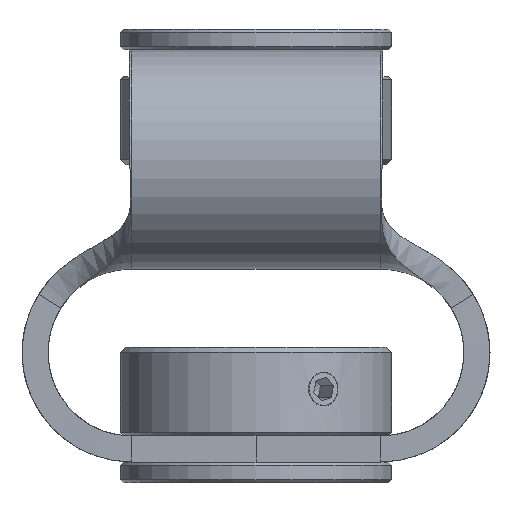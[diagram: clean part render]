
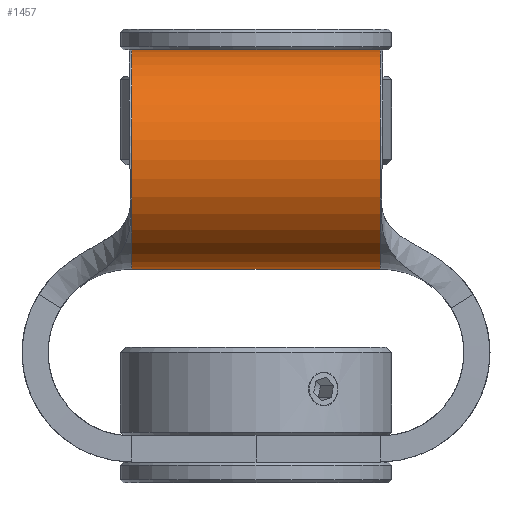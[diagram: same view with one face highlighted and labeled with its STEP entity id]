
A CAD part, front view. The second image highlights one B-rep face of the part: STEP entity #1457.
In plain terms, the highlighted cylindrical face has radius 10.5 mm (diameter 21 mm), a partial arc.
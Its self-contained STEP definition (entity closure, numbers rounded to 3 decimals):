
#126=CYLINDRICAL_SURFACE('',#1595,10.5);
#173=FACE_OUTER_BOUND('',#275,.T.);
#275=EDGE_LOOP('',(#1074,#1075,#1076,#1077));
#392=CIRCLE('',#1559,10.5);
#415=CIRCLE('',#1596,10.5);
#511=LINE('',#2413,#605);
#512=LINE('',#2416,#606);
#605=VECTOR('',#1887,23.867);
#606=VECTOR('',#1890,23.867);
#677=VERTEX_POINT('',#2275);
#678=VERTEX_POINT('',#2280);
#711=VERTEX_POINT('',#2412);
#712=VERTEX_POINT('',#2414);
#801=EDGE_CURVE('',#678,#677,#392,.T.);
#852=EDGE_CURVE('',#711,#677,#511,.T.);
#853=EDGE_CURVE('',#711,#712,#415,.T.);
#854=EDGE_CURVE('',#678,#712,#512,.T.);
#1074=ORIENTED_EDGE('',*,*,#801,.T.);
#1075=ORIENTED_EDGE('',*,*,#852,.F.);
#1076=ORIENTED_EDGE('',*,*,#853,.T.);
#1077=ORIENTED_EDGE('',*,*,#854,.F.);
#1457=ADVANCED_FACE('',(#173),#126,.T.);
#1559=AXIS2_PLACEMENT_3D('',#2281,#1788,#1789);
#1595=AXIS2_PLACEMENT_3D('',#2411,#1885,#1886);
#1596=AXIS2_PLACEMENT_3D('',#2415,#1888,#1889);
#1788=DIRECTION('center_axis',(1.,0.,0.));
#1789=DIRECTION('ref_axis',(0.,-1.,0.));
#1885=DIRECTION('center_axis',(-1.,0.,0.));
#1886=DIRECTION('ref_axis',(0.,-1.,0.));
#1887=DIRECTION('',(-1.,0.,0.));
#1888=DIRECTION('center_axis',(-1.,0.,0.));
#1889=DIRECTION('ref_axis',(0.,-1.,0.));
#1890=DIRECTION('',(1.,0.,0.));
#2275=CARTESIAN_POINT('',(35.5,-16.867,0.));
#2280=CARTESIAN_POINT('',(35.5,-16.867,21.));
#2281=CARTESIAN_POINT('Origin',(35.5,-16.867,10.5));
#2411=CARTESIAN_POINT('Origin',(47.434,-16.867,10.5));
#2412=CARTESIAN_POINT('',(59.367,-16.867,0.));
#2413=CARTESIAN_POINT('',(41.934,-16.867,0.));
#2414=CARTESIAN_POINT('',(59.367,-16.867,21.));
#2415=CARTESIAN_POINT('Origin',(59.367,-16.867,10.5));
#2416=CARTESIAN_POINT('',(41.934,-16.867,21.));
